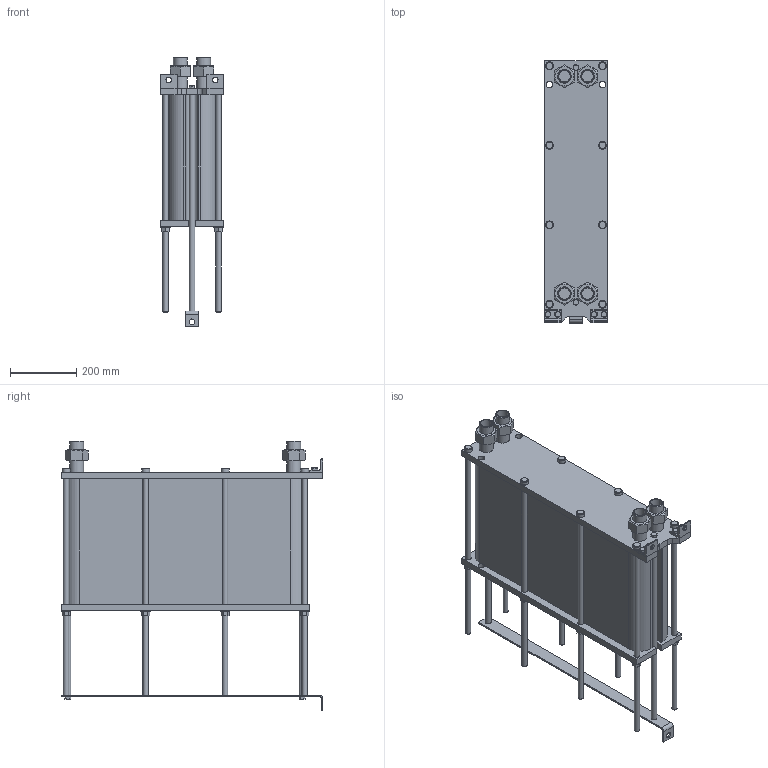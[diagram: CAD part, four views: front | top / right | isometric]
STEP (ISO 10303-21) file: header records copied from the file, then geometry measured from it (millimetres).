
FILE_DESCRIPTION(/* description */ (''),/* implementation_level */ '2;1');
FILE_NAME(/* name */ 'C:\Users\zhuro\Desktop\ENCO\TO\ЭН-008\ЭН-0,5-008-122-1.stp',/* time_stamp */ '2022-06-06T10:57:02+03:00',/* author */ ('zhuro'),/* organization */ (''),/* preprocessor_version */ 'ST-DEVELOPER v18.1',/* originating_system */ 'Autodesk Inventor 2022',/* authorisation */ '');
FILE_SCHEMA (('AUTOMOTIVE_DESIGN { 1 0 10303 214 3 1 1 }'));
Length unit declared in the file: millimetre
Products named in the file (1): ЭН-0,5-008-122-1
Bounding box: 190 x 790 x 814.6 mm (x, y, z)
Volume: 45615893 mm3; surface area: 2207619.1 mm2
Topology: 40 solids, 40 shells, 428 faces, 924 edges, 606 vertices
Faces by surface type: plane 273, cylinder 109, cone 40, torus 6
Full cylindrical faces by diameter (mm): 12 x6, 14 x2, 16 x20, 17 x8, 18 x19, 20 x5, 24 x8, 28 x8, 34.3 x8, 42.3 x8
Entity records: 15843 total; most frequent: CARTESIAN_POINT 5991, DIRECTION 1984, ORIENTED_EDGE 1848, EDGE_CURVE 924, AXIS2_PLACEMENT_3D 715, VERTEX_POINT 606, LINE 554, VECTOR 554
